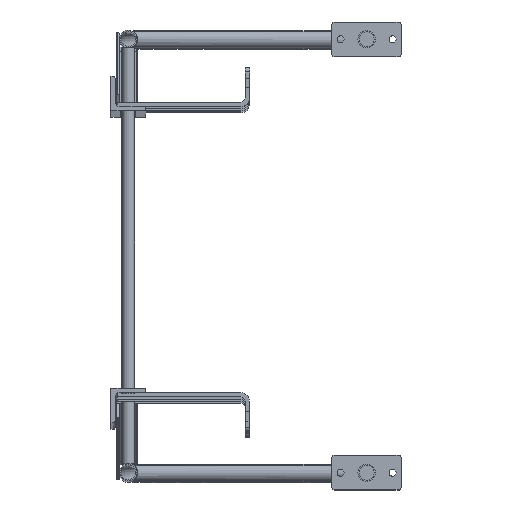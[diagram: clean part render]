
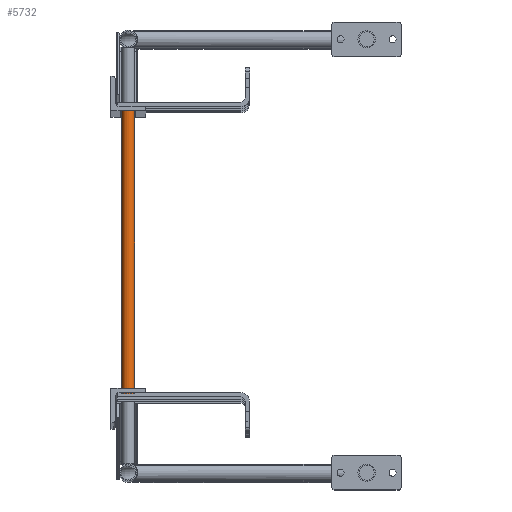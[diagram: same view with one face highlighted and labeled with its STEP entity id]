
A CAD part, top view. The second image highlights one B-rep face of the part: STEP entity #5732.
In plain terms, the highlighted cylindrical face has radius 9.525 mm (diameter 19.05 mm), a full revolution.
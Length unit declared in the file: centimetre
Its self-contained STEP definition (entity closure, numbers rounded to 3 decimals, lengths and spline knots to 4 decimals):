
#1009=FACE_BOUND('',#1580,.T.);
#1230=FACE_OUTER_BOUND('',#1579,.T.);
#1579=EDGE_LOOP('',(#3805));
#1580=EDGE_LOOP('',(#3806));
#2121=CIRCLE('',#6126,0.9525);
#2122=CIRCLE('',#6127,0.9525);
#2471=VERTEX_POINT('',#8810);
#2472=VERTEX_POINT('',#8812);
#3023=EDGE_CURVE('',#2471,#2471,#2121,.T.);
#3024=EDGE_CURVE('',#2472,#2472,#2122,.T.);
#3805=ORIENTED_EDGE('',*,*,#3023,.T.);
#3806=ORIENTED_EDGE('',*,*,#3024,.F.);
#5201=CYLINDRICAL_SURFACE('',#6125,0.9525);
#5732=ADVANCED_FACE('',(#1230,#1009),#5201,.T.);
#6125=AXIS2_PLACEMENT_3D('',#8809,#6868,#6869);
#6126=AXIS2_PLACEMENT_3D('',#8811,#6870,#6871);
#6127=AXIS2_PLACEMENT_3D('',#8813,#6872,#6873);
#6868=DIRECTION('center_axis',(0.,1.,0.));
#6869=DIRECTION('ref_axis',(1.,0.,0.));
#6870=DIRECTION('center_axis',(0.,-1.,0.));
#6871=DIRECTION('ref_axis',(1.,0.,0.));
#6872=DIRECTION('center_axis',(0.,-1.,0.));
#6873=DIRECTION('ref_axis',(1.,0.,0.));
#8809=CARTESIAN_POINT('Origin',(2.54,-41.4338,552.45));
#8810=CARTESIAN_POINT('',(1.5875,0.4762,552.45));
#8811=CARTESIAN_POINT('Origin',(2.54,0.4762,552.45));
#8812=CARTESIAN_POINT('',(1.5875,-41.4338,552.45));
#8813=CARTESIAN_POINT('Origin',(2.54,-41.4338,552.45));
